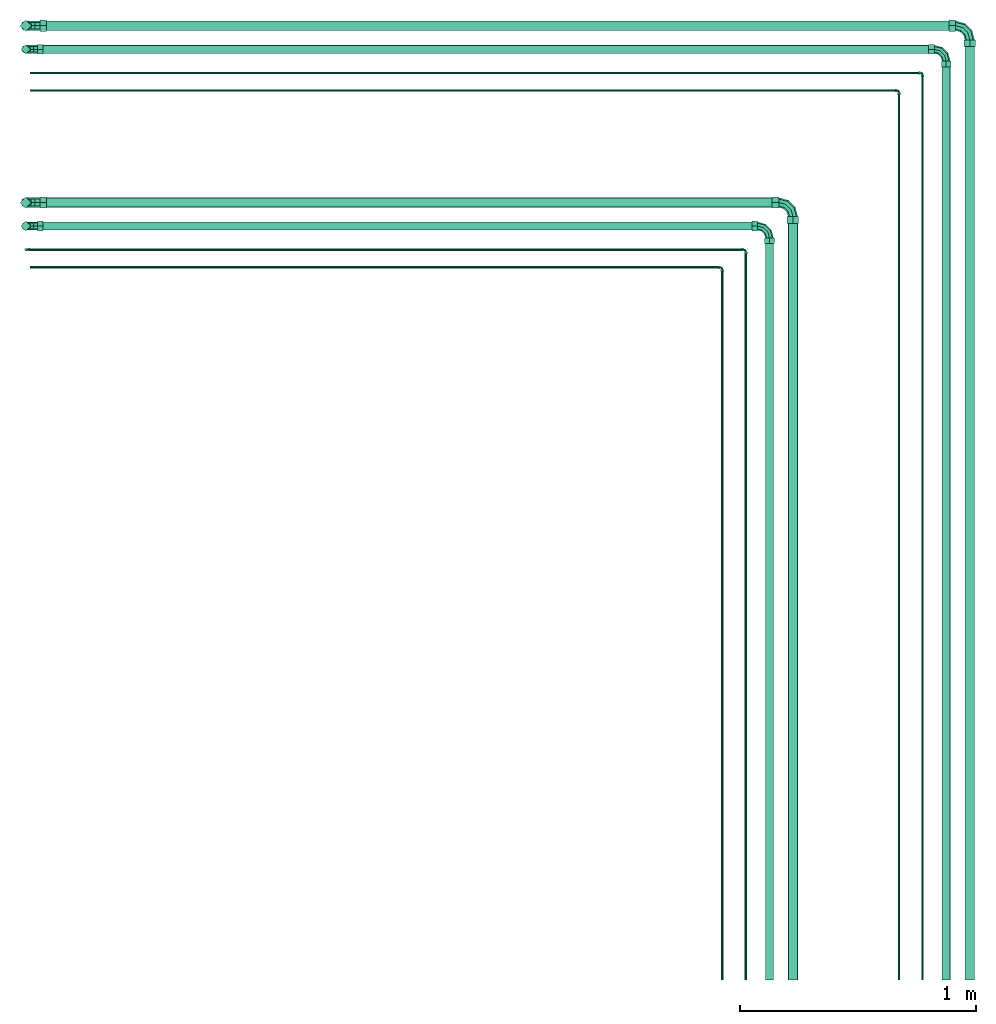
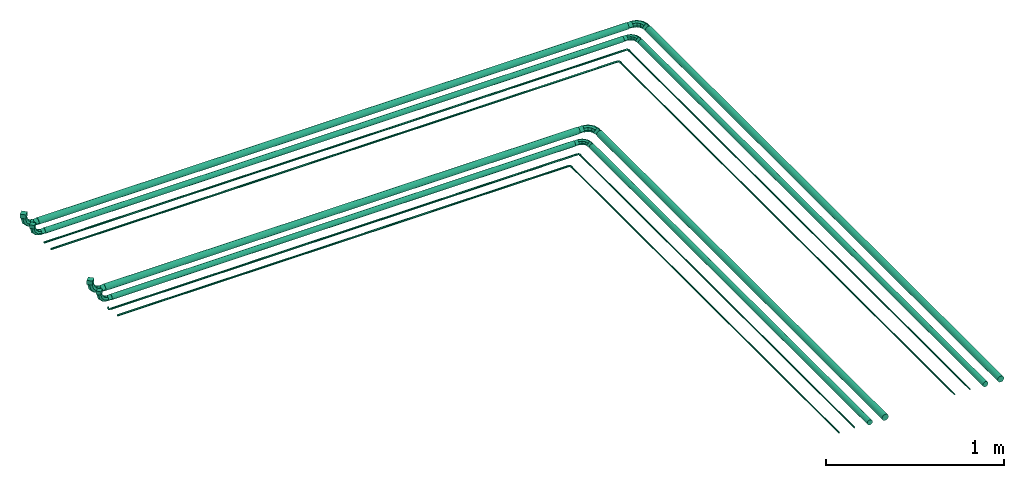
# One storey: 16 flow segments, 13 flow fittings.
"""IFC2X3 building model written with IfcOpenShell, lengths in millimetres."""

from ifc_helpers import new_model, entity, si_unit, converted_unit, direction, frame, frame_2d, origin, origin_2d_with_axis, place, context, subcontext, project, spatial, circle, extrude, faceted_brep, source, transform, mapped, material, type_object, type_shapes, element, save


model = new_model("IFC2X3")

# Units and contexts
model_context = context("Model", 3, precision=0.01, world=frame((0.0, 0.0, 308426.39999999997)), true_north=direction((6.123233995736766e-17, 1.0)))
plan_context = context("Plan", 3, precision=0.01, world=frame((0.0, 0.0, 308426.39999999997)), true_north=direction((6.123233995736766e-17, 1.0)))
body_context = subcontext(model_context, "Body", "Model", "MODEL_VIEW")
ifc_project = project(units=[si_unit("LENGTHUNIT", "METRE", prefix="MILLI"), si_unit("AREAUNIT", "SQUARE_METRE"), si_unit("VOLUMEUNIT", "CUBIC_METRE"), converted_unit("PLANEANGLEUNIT", "DEGREE", entity("IfcPlaneAngleMeasure", 0.017453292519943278), si_unit("PLANEANGLEUNIT", "RADIAN"), dimensions=[0, 0, 0, 0, 0, 0, 0])], contexts=[model_context, plan_context])

# Site, building, storey
site_placement = place(None, origin())
site = spatial("IfcSite", under=ifc_project, at=site_placement, Name="Default", CompositionType="ELEMENT")
building_placement = place(site_placement, origin())
building = spatial("IfcBuilding", under=site, at=building_placement, CompositionType="ELEMENT")
storey_placement = place(building_placement, frame((0.0, 0.0, 695.6529246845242)))
storey = spatial("IfcBuildingStorey", under=building, at=storey_placement, Name="EG_Technik_FFB", CompositionType="ELEMENT", Elevation=695.6529246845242)

# Flow segments
pipe_segment_type = type_object("IfcPipeSegmentType", Name="Rohrtypen:Kupfer - isoliert", PredefinedType="NOTDEFINED")
flow_segment_1_placement = place(storey_placement, origin())
element("IfcFlowSegment", 1, at=flow_segment_1_placement, inside=storey, type_object=pipe_segment_type, Name="Rohrtypen:Kupfer - isoliert", ObjectType="Rohrtypen:Kupfer - isoliert", context=body_context, shape_type="SweptSolid", body=[
    extrude(circle(Radius=17.462500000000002, at=frame_2d((-1.2128111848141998e-10, -3.790034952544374e-12), x_axis=(1.0, 0.0))), frame((73405.0, 37576.577886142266, 3600.0), z_axis=(0.0, 1.0, 0.0), x_axis=(-1.0, 0.0, 0.0)), (0.0, 0.0, 1.0), 3874.3363135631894),
])
flow_segment_2_placement = place(storey_placement, origin())
element("IfcFlowSegment", 2, at=flow_segment_2_placement, inside=storey, type_object=pipe_segment_type, Name="Rohrtypen:Kupfer - isoliert", ObjectType="Rohrtypen:Kupfer - isoliert", context=body_context, shape_type="SweptSolid", body=[
    extrude(circle(Radius=17.462500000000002, at=frame_2d((-8.662937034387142e-12, 5.95576921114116e-12), x_axis=(1.0, 0.0))), frame((72655.0, 37576.57788614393, 3600.0), z_axis=(0.0, 1.0, 0.0), x_axis=(-1.0, 0.0, 0.0)), (0.0, 0.0, 1.0), 3124.3378638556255),
])
flow_segment_3_placement = place(storey_placement, origin())
element("IfcFlowSegment", 3, at=flow_segment_3_placement, inside=storey, type_object=pipe_segment_type, Name="Rohrtypen:Kupfer - isoliert", ObjectType="Rohrtypen:Kupfer - isoliert", context=body_context, shape_type="SweptSolid", body=[
    extrude(circle(Radius=17.462500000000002, at=frame_2d((0.0, 5.414335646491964e-13), x_axis=(1.0, 0.0))), frame((69574.08425000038, 40775.0, 3600.0), z_axis=(1.0, 0.0, 0.0), x_axis=(0.0, 1.0, 0.0)), (0.0, 0.0, 1.0), 3006.8315000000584),
])
flow_segment_4_placement = place(storey_placement, origin())
element("IfcFlowSegment", 4, at=flow_segment_4_placement, inside=storey, type_object=pipe_segment_type, Name="Rohrtypen:Kupfer - isoliert", ObjectType="Rohrtypen:Kupfer - isoliert", context=body_context, shape_type="SweptSolid", body=[
    extrude(circle(Radius=17.462500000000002, at=frame_2d((0.0, 5.414335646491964e-13), x_axis=(1.0, 0.0))), frame((69574.08425000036, 41524.998449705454, 3600.0), z_axis=(1.0, 0.0, 0.0), x_axis=(0.0, 1.0, 0.0)), (0.0, 0.0, 1.0), 3756.831500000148),
])
flow_segment_5_placement = place(storey_placement, origin())
element("IfcFlowSegment", 5, at=flow_segment_5_placement, inside=storey, type_object=pipe_segment_type, Name="Rohrtypen:Kupfer - isoliert", ObjectType="Rohrtypen:Kupfer - isoliert", context=body_context, shape_type="SweptSolid", body=[
    extrude(circle(Radius=20.637500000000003, at=frame_2d((-1.1261818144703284e-10, -3.790034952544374e-12), x_axis=(1.0, 0.0))), frame((73505.0, 37576.577886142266, 3600.0), z_axis=(0.0, 1.0, 0.0), x_axis=(-1.0, 0.0, 0.0)), (0.0, 0.0, 1.0), 3960.302813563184),
])
flow_segment_6_placement = place(storey_placement, origin())
element("IfcFlowSegment", 6, at=flow_segment_6_placement, inside=storey, type_object=pipe_segment_type, Name="Rohrtypen:Kupfer - isoliert", ObjectType="Rohrtypen:Kupfer - isoliert", context=body_context, shape_type="SweptSolid", body=[
    extrude(circle(Radius=20.637500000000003, at=frame_2d((-8.662937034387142e-12, 5.95576921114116e-12), x_axis=(1.0, 0.0))), frame((72755.0, 37576.577886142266, 3600.0), z_axis=(0.0, 1.0, 0.0), x_axis=(-1.0, 0.0, 0.0)), (0.0, 0.0, 1.0), 3210.3043638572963),
])
flow_segment_7_placement = place(storey_placement, origin())
element("IfcFlowSegment", 7, at=flow_segment_7_placement, inside=storey, type_object=pipe_segment_type, Name="Rohrtypen:Kupfer - isoliert", ObjectType="Rohrtypen:Kupfer - isoliert", context=body_context, shape_type="SweptSolid", body=[
    extrude(circle(Radius=20.637500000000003, at=origin_2d_with_axis()), frame((69588.11775000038, 40875.0, 3600.0), z_axis=(1.0, 0.0, 0.0), x_axis=(0.0, 1.0, 0.0)), (0.0, 0.0, 1.0), 3078.764500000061),
])
flow_segment_8_placement = place(storey_placement, origin())
element("IfcFlowSegment", 8, at=flow_segment_8_placement, inside=storey, type_object=pipe_segment_type, Name="Rohrtypen:Kupfer - isoliert", ObjectType="Rohrtypen:Kupfer - isoliert", context=body_context, shape_type="SweptSolid", body=[
    extrude(circle(Radius=20.637500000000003, at=frame_2d((0.0, -5.414335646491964e-13), x_axis=(1.0, 0.0))), frame((69588.11775000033, 41624.99844970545, 3600.0), z_axis=(1.0, 0.0, 0.0), x_axis=(0.0, -1.0, 0.0)), (0.0, 0.0, 1.0), 3828.764500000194),
])
flow_segment_9_placement = place(storey_placement, origin())
element("IfcFlowSegment", 9, at=flow_segment_9_placement, inside=storey, type_object=pipe_segment_type, Name="Rohrtypen:Kupfer - isoliert", ObjectType="Rohrtypen:Kupfer - isoliert", context=body_context, shape_type="SweptSolid", body=[
    extrude(circle(Radius=4.7625, at=frame_2d((5.2916225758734e-41, 5.4143356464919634e-12), x_axis=(1.0, 0.0))), frame((72555.0, 37576.57788614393, 3600.0), z_axis=(0.0, 1.0, 0.0), x_axis=(-1.0, 0.0, 0.0)), (0.0, 0.0, 1.0), 3080.471863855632),
])
flow_segment_10_placement = place(storey_placement, origin())
element("IfcFlowSegment", 10, at=flow_segment_10_placement, inside=storey, type_object=pipe_segment_type, Name="Rohrtypen:Kupfer - isoliert", ObjectType="Rohrtypen:Kupfer - isoliert", context=body_context, shape_type="SweptSolid", body=[
    extrude(circle(Radius=4.7625, at=frame_2d((4.331468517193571e-11, 0.0), x_axis=(1.0, 0.0))), frame((69517.95025000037, 40675.0, 3600.0), z_axis=(1.0, 0.0, 0.0), x_axis=(0.0, 1.0, 0.0)), (0.0, 0.0, 1.0), 3019.099500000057),
])
flow_segment_11_placement = place(storey_placement, origin())
element("IfcFlowSegment", 11, at=flow_segment_11_placement, inside=storey, type_object=pipe_segment_type, Name="Rohrtypen:Kupfer - isoliert", ObjectType="Rohrtypen:Kupfer - isoliert", context=body_context, shape_type="SweptSolid", body=[
    extrude(circle(Radius=4.7625, at=frame_2d((4.331468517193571e-11, 0.0), x_axis=(1.0, 0.0))), frame((69517.95025000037, 40600.0, 3600.0), z_axis=(1.0, 0.0, 0.0), x_axis=(0.0, 1.0, 0.0)), (0.0, 0.0, 1.0), 2919.0995000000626),
])
flow_segment_12_placement = place(storey_placement, origin())
element("IfcFlowSegment", 12, at=flow_segment_12_placement, inside=storey, type_object=pipe_segment_type, Name="Rohrtypen:Kupfer - isoliert", ObjectType="Rohrtypen:Kupfer - isoliert", context=body_context, shape_type="SweptSolid", body=[
    extrude(circle(Radius=4.7625, at=frame_2d((5.2916225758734e-41, 5.4143356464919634e-12), x_axis=(1.0, 0.0))), frame((72455.0, 37576.57788614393, 3600.0), z_axis=(0.0, 1.0, 0.0), x_axis=(-1.0, 0.0, 0.0)), (0.0, 0.0, 1.0), 3005.4718638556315),
])
flow_segment_13_placement = place(storey_placement, origin())
element("IfcFlowSegment", 13, at=flow_segment_13_placement, inside=storey, type_object=pipe_segment_type, Name="Rohrtypen:Kupfer - isoliert", ObjectType="Rohrtypen:Kupfer - isoliert", context=body_context, shape_type="SweptSolid", body=[
    extrude(circle(Radius=4.7625, at=frame_2d((6.879109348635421e-41, 7.038636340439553e-12), x_axis=(1.0, 0.0))), frame((73305.0, 37576.57788614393, 3600.0), z_axis=(0.0, 1.0, 0.0), x_axis=(-1.0, 0.0, 0.0)), (0.0, 0.0, 1.0), 3830.470313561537),
])
flow_segment_14_placement = place(storey_placement, origin())
element("IfcFlowSegment", 14, at=flow_segment_14_placement, inside=storey, type_object=pipe_segment_type, Name="Rohrtypen:Kupfer - isoliert", ObjectType="Rohrtypen:Kupfer - isoliert", context=body_context, shape_type="SweptSolid", body=[
    extrude(circle(Radius=4.7625, at=frame_2d((4.331468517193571e-11, 0.0), x_axis=(1.0, 0.0))), frame((69517.95025000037, 41424.998449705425, 3600.0), z_axis=(1.0, 0.0, 0.0), x_axis=(0.0, 1.0, 0.0)), (0.0, 0.0, 1.0), 3769.0995000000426),
])
flow_segment_15_placement = place(storey_placement, origin())
element("IfcFlowSegment", 15, at=flow_segment_15_placement, inside=storey, type_object=pipe_segment_type, Name="Rohrtypen:Kupfer - isoliert", ObjectType="Rohrtypen:Kupfer - isoliert", context=body_context, shape_type="SweptSolid", body=[
    extrude(circle(Radius=4.7625, at=frame_2d((6.879109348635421e-41, 7.038636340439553e-12), x_axis=(1.0, 0.0))), frame((73205.0, 37576.57788614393, 3600.0), z_axis=(0.0, 1.0, 0.0), x_axis=(-1.0, 0.0, 0.0)), (0.0, 0.0, 1.0), 3755.4703135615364),
])
flow_segment_16_placement = place(storey_placement, origin())
element("IfcFlowSegment", 16, at=flow_segment_16_placement, inside=storey, type_object=pipe_segment_type, Name="Rohrtypen:Kupfer - isoliert", ObjectType="Rohrtypen:Kupfer - isoliert", context=body_context, shape_type="SweptSolid", body=[
    extrude(circle(Radius=4.7625, at=frame_2d((4.331468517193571e-11, 0.0), x_axis=(1.0, 0.0))), frame((69517.95025000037, 41349.998449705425, 3600.0), z_axis=(1.0, 0.0, 0.0), x_axis=(0.0, 1.0, 0.0)), (0.0, 0.0, 1.0), 3669.0995000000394),
])

# Flow fittings
ifc_material = material(Name="<Unnamed>")
pipe_fitting_type_1 = type_object("IfcPipeFittingType", Name="Bogen Kupfer:Allgemein", PredefinedType="NOTDEFINED", material=ifc_material)
shared_shape_1 = source(origin(), body_context, "Body", "Brep", [
    faceted_brep([(-20.757999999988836, 50.07849999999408, 0.0), (0.0, 50.078499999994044, -20.75800000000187), (20.75800000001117, 50.078499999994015, 0.0), (0.0, 50.078499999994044, 20.757999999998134), (20.758000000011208, 74.08424999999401, 0.0), (0.0, 74.08424999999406, -20.75800000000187), (-20.757999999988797, 74.08424999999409, 0.0), (0.0, 74.08424999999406, 20.757999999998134)], [[[0, 1, 2, 3]], [[4, 5, 6, 7]], [[4, 7, 3, 2]], [[3, 7, 6, 0]], [[6, 5, 1, 0]], [[1, 5, 4, 2]]]),
    faceted_brep([(8.413721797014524, 16.307999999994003, 0.0), (3.9843068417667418, 18.865323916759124, -12.347852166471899), (12.347852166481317, 50.07849999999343, -12.347852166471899), (17.462500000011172, 50.078499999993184, 0.0), (-6.709246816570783, 25.039249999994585, -17.46250000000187), (0.0, 50.07849999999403, -17.46250000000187), (-17.402800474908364, 31.213176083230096, -12.347852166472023), (-12.347852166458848, 50.078499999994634, -12.347852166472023), (-21.832215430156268, 33.77049999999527, 0.0), (-17.462499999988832, 50.078499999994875, 0.0), (-17.40280047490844, 31.213176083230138, 12.347852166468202), (-12.347852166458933, 50.078499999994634, 12.347852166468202), (-6.7092468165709, 25.039249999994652, 17.462499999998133), (0.0, 50.07849999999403, 17.462499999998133), (3.98430684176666, 18.865323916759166, 12.347852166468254), (12.347852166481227, 50.07849999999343, 12.347852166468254), (-16.307999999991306, -8.413721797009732, 0.0), (-18.86532391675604, -3.9843068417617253, -12.347852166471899), (-25.039249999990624, 6.709246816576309, -17.46250000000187), (-31.21317608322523, 17.402800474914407, -12.347852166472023), (-33.77049999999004, 21.832215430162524, 0.0), (-31.21317608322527, 17.402800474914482, 12.347852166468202), (-25.039249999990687, 6.709246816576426, 17.462499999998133), (-18.865323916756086, -3.984306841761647, 12.347852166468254), (-50.078499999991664, -17.462500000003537, 0.0), (-50.07849999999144, -12.347852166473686, -12.347852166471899), (-50.07849999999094, 0.0, -17.46250000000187), (-50.07849999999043, 12.347852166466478, -12.347852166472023), (-50.078499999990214, 17.462499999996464, 0.0), (-50.07849999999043, 12.347852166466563, 12.347852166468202), (-50.07849999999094, 0.0, 17.462499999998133), (-50.07849999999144, -12.347852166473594, 12.347852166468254)], [[[0, 1, 2, 3]], [[1, 4, 5, 2]], [[4, 6, 7, 5]], [[6, 8, 9, 7]], [[8, 10, 11, 9]], [[10, 12, 13, 11]], [[12, 14, 15, 13]], [[14, 0, 3, 15]], [[16, 17, 1, 0]], [[17, 18, 4, 1]], [[18, 19, 6, 4]], [[19, 20, 8, 6]], [[20, 21, 10, 8]], [[21, 22, 12, 10]], [[22, 23, 14, 12]], [[23, 16, 0, 14]], [[24, 25, 17, 16]], [[25, 26, 18, 17]], [[26, 27, 19, 18]], [[27, 28, 20, 19]], [[28, 29, 21, 20]], [[29, 30, 22, 21]], [[30, 31, 23, 22]], [[31, 24, 16, 23]], [[3, 2, 5, 7, 9, 11, 13, 15]], [[31, 30, 29, 28, 27, 26, 25, 24]]]),
    faceted_brep([(-74.08424999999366, 0.0, 20.757999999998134), (-74.08424999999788, 20.757999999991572, 0.0), (-74.08424999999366, 0.0, -20.75800000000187), (-74.08424999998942, -20.758000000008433, 0.0), (-50.07849999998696, -20.758000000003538, 0.0), (-50.07849999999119, 0.0, -20.75800000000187), (-50.078499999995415, 20.757999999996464, 0.0), (-50.07849999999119, 0.0, 20.757999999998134)], [[[0, 1, 2, 3]], [[4, 5, 6, 7]], [[4, 7, 0, 3]], [[0, 7, 6, 1]], [[6, 5, 2, 1]], [[2, 5, 4, 3]]]),
])
type_shapes(pipe_fitting_type_1, [shared_shape_1])
for number, where, z_axis, x_axis, name in (
    (17, (73405.0, 41524.99844970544, 3600.0), (0.0, 0.0, 1.0), (0.0, 1.0, 0.0), "Bogen Kupfer:Allgemein"),
    (18, (72655.0, 40775.0, 3600.0), (0.0, 0.0, 1.0), (0.0, 1.0, 0.0), "Bogen Kupfer:Allgemein"),
    (19, (69500.0, 40775.0, 3600.0), (0.0, 1.0, 0.0), (-1.0, 0.0, 0.0), "Bogen Kupfer:Allgemein"),
    (20, (69500.0, 41524.998449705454, 3600.0), (0.0, 1.0, 0.0), (-1.0, 0.0, 0.0), "Bogen Kupfer:Allgemein"),
):
    element("IfcFlowFitting", number, at=place(storey_placement, frame(where, z_axis=z_axis, x_axis=x_axis)), inside=storey, type_object=pipe_fitting_type_1, material=ifc_material, Name=name, ObjectType="Bogen Kupfer:Allgemein", context=body_context, shape_type="MappedRepresentation", body=[
        mapped(shared_shape_1, transform((0.0, 0.0, 0.0), scale=1.0)),
    ])
pipe_fitting_type_2 = type_object("IfcPipeFittingType", Name="Bogen Kupfer:Allgemein", PredefinedType="NOTDEFINED", material=ifc_material)
shared_shape_2 = source(origin(), body_context, "Body", "Brep", [
    faceted_brep([(-24.31399999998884, 60.365499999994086, 0.0), (0.0, 60.36549999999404, -24.314000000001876), (24.314000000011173, 60.365499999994, 0.0), (0.0, 60.36549999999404, 24.31399999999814), (24.314000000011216, 88.117749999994, 0.0), (0.0, 88.11774999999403, -24.314000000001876), (-24.3139999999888, 88.11774999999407, 0.0), (0.0, 88.11774999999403, 24.31399999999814)], [[[0, 1, 2, 3]], [[4, 5, 6, 7]], [[4, 7, 3, 2]], [[3, 7, 6, 0]], [[6, 5, 1, 0]], [[1, 5, 4, 2]]]),
    faceted_brep([(9.78515578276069, 19.8639999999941, 0.0), (4.550392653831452, 22.886291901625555, -14.592916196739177), (14.592916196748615, 60.36549999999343, -14.592916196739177), (20.637500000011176, 60.36549999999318, 0.0), (-8.087443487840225, 30.182749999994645, -20.63750000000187), (0.0, 60.36549999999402, -20.63750000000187), (-20.725279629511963, 37.47920809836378, -14.592916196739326), (-14.592916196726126, 60.36549999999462, -14.592916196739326), (-25.96004275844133, 40.50149999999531, 0.0), (-20.637499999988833, 60.36549999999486, 0.0), (-20.725279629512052, 37.479208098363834, 14.592916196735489), (-14.592916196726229, 60.36549999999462, 14.592916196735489), (-8.08744348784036, 30.182749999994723, 20.637499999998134), (0.0, 60.36549999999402, 20.637499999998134), (4.550392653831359, 22.886291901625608, 14.59291619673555), (14.592916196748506, 60.36549999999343, 14.59291619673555), (-19.86399999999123, -9.785155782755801, 0.0), (-22.886291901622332, -4.550392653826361, -14.592916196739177), (-30.182749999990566, 8.08744348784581, -20.63750000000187), (-37.47920809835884, 20.725279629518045, -14.592916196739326), (-40.50149999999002, 25.96004275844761, 0.0), (-37.47920809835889, 20.725279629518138, 14.592916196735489), (-30.182749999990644, 8.087443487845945, 20.637499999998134), (-22.886291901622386, -4.550392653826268, 14.59291619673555), (-60.36549999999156, -20.637500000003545, 0.0), (-60.36549999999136, -14.592916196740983, -14.592916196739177), (-60.365499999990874, 0.0, -20.63750000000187), (-60.36549999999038, 14.592916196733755, -14.592916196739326), (-60.365499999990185, 20.637499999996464, 0.0), (-60.36549999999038, 14.592916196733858, 14.592916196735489), (-60.365499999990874, 0.0, 20.637499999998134), (-60.36549999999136, -14.592916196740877, 14.59291619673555)], [[[0, 1, 2, 3]], [[1, 4, 5, 2]], [[4, 6, 7, 5]], [[6, 8, 9, 7]], [[8, 10, 11, 9]], [[10, 12, 13, 11]], [[12, 14, 15, 13]], [[14, 0, 3, 15]], [[16, 17, 1, 0]], [[17, 18, 4, 1]], [[18, 19, 6, 4]], [[19, 20, 8, 6]], [[20, 21, 10, 8]], [[21, 22, 12, 10]], [[22, 23, 14, 12]], [[23, 16, 0, 14]], [[24, 25, 17, 16]], [[25, 26, 18, 17]], [[26, 27, 19, 18]], [[27, 28, 20, 19]], [[28, 29, 21, 20]], [[29, 30, 22, 21]], [[30, 31, 23, 22]], [[31, 24, 16, 23]], [[3, 2, 5, 7, 9, 11, 13, 15]], [[31, 30, 29, 28, 27, 26, 25, 24]]]),
    faceted_brep([(-88.11774999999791, 24.313999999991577, 0.0), (-88.11774999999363, 0.0, -24.314000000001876), (-88.11774999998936, -24.314000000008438, 0.0), (-88.11774999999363, 0.0, 24.31399999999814), (-60.3654999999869, -24.314000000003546, 0.0), (-60.36549999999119, 0.0, -24.314000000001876), (-60.36549999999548, 24.313999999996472, 0.0), (-60.36549999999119, 0.0, 24.31399999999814)], [[[0, 1, 2, 3]], [[4, 5, 6, 7]], [[4, 7, 3, 2]], [[3, 7, 6, 0]], [[6, 5, 1, 0]], [[1, 5, 4, 2]]]),
])
type_shapes(pipe_fitting_type_2, [shared_shape_2])
for number, where, z_axis, x_axis, name in (
    (21, (72755.0, 40875.0, 3600.0), (0.0, 0.0, 1.0), (0.0, 1.0, 0.0), "Bogen Kupfer:Allgemein"),
    (22, (73505.0, 41624.99844970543, 3600.0), (0.0, 0.0, 1.0), (0.0, 1.0, 0.0), "Bogen Kupfer:Allgemein"),
    (23, (69500.0, 40875.0, 3600.0), (0.0, 1.0, 0.0), (-1.0, 0.0, 0.0), "Bogen Kupfer:Allgemein"),
    (24, (69500.0, 41624.99844970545, 3600.0), (0.0, 1.0, 0.0), (-1.0, 0.0, 0.0), "Bogen Kupfer:Allgemein"),
):
    element("IfcFlowFitting", number, at=place(storey_placement, frame(where, z_axis=z_axis, x_axis=x_axis)), inside=storey, type_object=pipe_fitting_type_2, material=ifc_material, Name=name, ObjectType="Bogen Kupfer:Allgemein", context=body_context, shape_type="MappedRepresentation", body=[
        mapped(shared_shape_2, transform((0.0, 0.0, 0.0), scale=1.0)),
    ])
pipe_fitting_type_3 = type_object("IfcPipeFittingType", Name="Bogen Kupfer:Allgemein", PredefinedType="NOTDEFINED", material=ifc_material)
shared_shape_3 = source(origin(), body_context, "Body", "Brep", [
    faceted_brep([(-6.533999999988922, 8.930499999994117, 0.0), (0.0, 8.930499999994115, -6.5340000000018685), (6.53400000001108, 8.930499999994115, 0.0), (0.0, 8.930499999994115, 6.533999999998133), (6.534000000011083, 17.950249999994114, 0.0), (0.0, 17.950249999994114, -6.5340000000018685), (-6.533999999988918, 17.950249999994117, 0.0), (0.0, 17.950249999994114, 6.533999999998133)], [[[0, 1, 2, 3]], [[4, 5, 6, 7]], [[4, 7, 3, 2]], [[3, 7, 6, 0]], [[6, 5, 1, 0]], [[1, 5, 4, 2]]]),
    faceted_brep([(0.7519131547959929, -0.7519131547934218, 0.0), (-2.6156828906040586, 2.6156828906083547, -4.762500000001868), (0.0, 8.930499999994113, -4.762500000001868), (4.76250000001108, 8.930499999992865, 0.0), (-5.983278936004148, 5.983278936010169, 0.0), (-4.76249999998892, 8.930499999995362, 0.0), (-2.6156828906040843, 2.6156828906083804, 4.762499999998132), (0.0, 8.930499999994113, 4.762499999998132), (-8.930499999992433, -4.762500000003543, 0.0), (-8.930499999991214, 0.0, -4.762500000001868), (-8.930499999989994, 4.762499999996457, 0.0), (-8.930499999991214, 0.0, 4.762499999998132)], [[[0, 1, 2, 3]], [[1, 4, 5, 2]], [[4, 6, 7, 5]], [[6, 0, 3, 7]], [[8, 9, 1, 0]], [[9, 10, 4, 1]], [[10, 11, 6, 4]], [[11, 8, 0, 6]], [[3, 2, 5, 7]], [[11, 10, 9, 8]]]),
    faceted_brep([(-17.950249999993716, 0.0, 6.533999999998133), (-17.950249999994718, 6.533999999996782, 0.0), (-17.950249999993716, 0.0, -6.5340000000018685), (-17.950249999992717, -6.5340000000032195, 0.0), (-8.930499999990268, -6.534000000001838, 0.0), (-8.930499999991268, 0.0, -6.5340000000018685), (-8.930499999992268, 6.533999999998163, 0.0), (-8.930499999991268, 0.0, 6.533999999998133)], [[[0, 1, 2, 3]], [[4, 5, 6, 7]], [[4, 7, 0, 3]], [[0, 7, 6, 1]], [[6, 5, 2, 1]], [[2, 5, 4, 3]]]),
])
type_shapes(pipe_fitting_type_3, [shared_shape_3])
for number, where, z_axis, x_axis, name in (
    (25, (69500.0, 40675.0, 3600.0), (0.0, 1.0, 0.0), (-1.0, 0.0, 0.0), "Bogen Kupfer:Allgemein"),
    (26, (72555.0, 40675.0, 3600.0), (0.0, 0.0, 1.0), (0.0, 1.0, 0.0), "Bogen Kupfer:Allgemein"),
    (27, (72455.0, 40600.0, 3600.0), (0.0, 0.0, 1.0), (0.0, 1.0, 0.0), "Bogen Kupfer:Allgemein"),
    (28, (73305.0, 41424.998449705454, 3600.0), (0.0, 0.0, 1.0), (0.0, 1.0, 0.0), "Bogen Kupfer:Allgemein"),
    (29, (73205.0, 41349.998449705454, 3600.0), (0.0, 0.0, 1.0), (0.0, 1.0, 0.0), "Bogen Kupfer:Allgemein"),
):
    element("IfcFlowFitting", number, at=place(storey_placement, frame(where, z_axis=z_axis, x_axis=x_axis)), inside=storey, type_object=pipe_fitting_type_3, material=ifc_material, Name=name, ObjectType="Bogen Kupfer:Allgemein", context=body_context, shape_type="MappedRepresentation", body=[
        mapped(shared_shape_3, transform((0.0, 0.0, 0.0), scale=1.0)),
    ])

save(model, "model.ifc")
